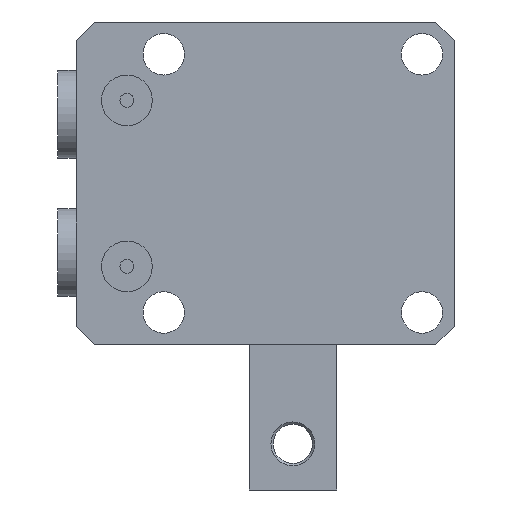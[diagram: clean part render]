
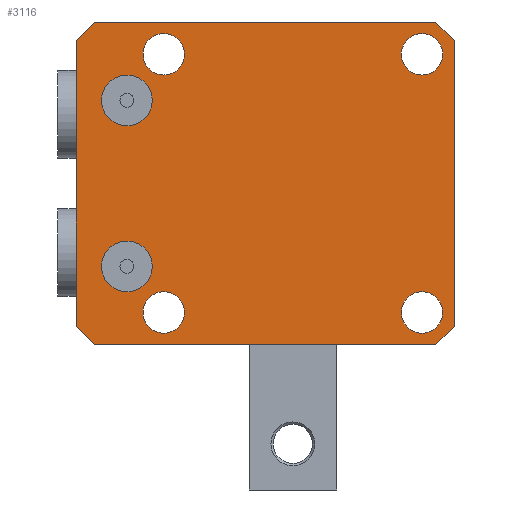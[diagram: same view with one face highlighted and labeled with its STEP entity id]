
A CAD part, front view. The second image highlights one B-rep face of the part: STEP entity #3116.
In plain terms, the highlighted planar face has unit normal (0, -1, 0).
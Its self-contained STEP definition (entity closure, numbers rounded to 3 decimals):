
#151=FACE_BOUND('',#521,.T.);
#152=FACE_BOUND('',#522,.T.);
#153=FACE_BOUND('',#523,.T.);
#154=FACE_BOUND('',#524,.T.);
#155=FACE_BOUND('',#525,.T.);
#156=FACE_BOUND('',#526,.T.);
#208=PLANE('',#3602);
#326=FACE_OUTER_BOUND('',#520,.T.);
#520=EDGE_LOOP('',(#2306,#2307,#2308,#2309,#2310,#2311,#2312,#2313));
#521=EDGE_LOOP('',(#2314));
#522=EDGE_LOOP('',(#2315));
#523=EDGE_LOOP('',(#2316));
#524=EDGE_LOOP('',(#2317));
#525=EDGE_LOOP('',(#2318));
#526=EDGE_LOOP('',(#2319));
#758=LINE('',#5114,#1025);
#760=LINE('',#5118,#1027);
#782=LINE('',#5167,#1049);
#784=LINE('',#5171,#1051);
#785=LINE('',#5173,#1052);
#786=LINE('',#5175,#1053);
#787=LINE('',#5177,#1054);
#788=LINE('',#5178,#1055);
#1025=VECTOR('',#4080,1000.);
#1027=VECTOR('',#4084,1000.);
#1049=VECTOR('',#4128,1000.);
#1051=VECTOR('',#4132,1000.);
#1052=VECTOR('',#4133,1000.);
#1053=VECTOR('',#4134,1000.);
#1054=VECTOR('',#4135,1000.);
#1055=VECTOR('',#4136,1000.);
#1249=CIRCLE('',#3544,4.5);
#1252=CIRCLE('',#3551,4.5);
#1255=CIRCLE('',#3555,5.5);
#1257=CIRCLE('',#3558,5.5);
#1258=CIRCLE('',#3560,4.5);
#1260=CIRCLE('',#3563,4.5);
#1422=VERTEX_POINT('',#4999);
#1429=VERTEX_POINT('',#5016);
#1432=VERTEX_POINT('',#5024);
#1434=VERTEX_POINT('',#5030);
#1435=VERTEX_POINT('',#5034);
#1437=VERTEX_POINT('',#5040);
#1463=VERTEX_POINT('',#5111);
#1464=VERTEX_POINT('',#5113);
#1465=VERTEX_POINT('',#5117);
#1481=VERTEX_POINT('',#5166);
#1482=VERTEX_POINT('',#5170);
#1483=VERTEX_POINT('',#5172);
#1484=VERTEX_POINT('',#5174);
#1485=VERTEX_POINT('',#5176);
#1717=EDGE_CURVE('',#1422,#1422,#1249,.T.);
#1725=EDGE_CURVE('',#1429,#1429,#1252,.T.);
#1730=EDGE_CURVE('',#1432,#1432,#1255,.T.);
#1733=EDGE_CURVE('',#1434,#1434,#1257,.T.);
#1734=EDGE_CURVE('',#1435,#1435,#1258,.T.);
#1737=EDGE_CURVE('',#1437,#1437,#1260,.T.);
#1772=EDGE_CURVE('',#1464,#1463,#758,.T.);
#1774=EDGE_CURVE('',#1465,#1464,#760,.T.);
#1799=EDGE_CURVE('',#1463,#1481,#782,.T.);
#1801=EDGE_CURVE('',#1481,#1482,#784,.T.);
#1802=EDGE_CURVE('',#1482,#1483,#785,.T.);
#1803=EDGE_CURVE('',#1483,#1484,#786,.T.);
#1804=EDGE_CURVE('',#1484,#1485,#787,.T.);
#1805=EDGE_CURVE('',#1485,#1465,#788,.T.);
#2306=ORIENTED_EDGE('',*,*,#1772,.T.);
#2307=ORIENTED_EDGE('',*,*,#1799,.T.);
#2308=ORIENTED_EDGE('',*,*,#1801,.T.);
#2309=ORIENTED_EDGE('',*,*,#1802,.T.);
#2310=ORIENTED_EDGE('',*,*,#1803,.T.);
#2311=ORIENTED_EDGE('',*,*,#1804,.T.);
#2312=ORIENTED_EDGE('',*,*,#1805,.T.);
#2313=ORIENTED_EDGE('',*,*,#1774,.T.);
#2314=ORIENTED_EDGE('',*,*,#1730,.T.);
#2315=ORIENTED_EDGE('',*,*,#1733,.T.);
#2316=ORIENTED_EDGE('',*,*,#1734,.T.);
#2317=ORIENTED_EDGE('',*,*,#1717,.T.);
#2318=ORIENTED_EDGE('',*,*,#1737,.T.);
#2319=ORIENTED_EDGE('',*,*,#1725,.T.);
#3116=ADVANCED_FACE('',(#326,#151,#152,#153,#154,#155,#156),#208,.T.);
#3544=AXIS2_PLACEMENT_3D('',#5000,#3962,#3963);
#3551=AXIS2_PLACEMENT_3D('',#5017,#3979,#3980);
#3555=AXIS2_PLACEMENT_3D('',#5026,#3989,#3990);
#3558=AXIS2_PLACEMENT_3D('',#5032,#3996,#3997);
#3560=AXIS2_PLACEMENT_3D('',#5035,#4000,#4001);
#3563=AXIS2_PLACEMENT_3D('',#5041,#4007,#4008);
#3602=AXIS2_PLACEMENT_3D('',#5169,#4130,#4131);
#3962=DIRECTION('center_axis',(0.,1.,0.));
#3963=DIRECTION('ref_axis',(0.,0.,1.));
#3979=DIRECTION('center_axis',(0.,1.,0.));
#3980=DIRECTION('ref_axis',(0.,0.,1.));
#3989=DIRECTION('center_axis',(0.,1.,0.));
#3990=DIRECTION('ref_axis',(0.,0.,-1.));
#3996=DIRECTION('center_axis',(0.,1.,0.));
#3997=DIRECTION('ref_axis',(0.,0.,-1.));
#4000=DIRECTION('center_axis',(0.,1.,0.));
#4001=DIRECTION('ref_axis',(0.,0.,1.));
#4007=DIRECTION('center_axis',(0.,1.,0.));
#4008=DIRECTION('ref_axis',(0.,0.,1.));
#4080=DIRECTION('',(1.,0.,0.));
#4084=DIRECTION('',(0.707,0.,-0.707));
#4128=DIRECTION('',(0.707,0.,0.707));
#4130=DIRECTION('center_axis',(0.,-1.,0.));
#4131=DIRECTION('ref_axis',(0.,0.,-1.));
#4132=DIRECTION('',(0.,0.,1.));
#4133=DIRECTION('',(-0.707,0.,0.707));
#4134=DIRECTION('',(-1.,0.,0.));
#4135=DIRECTION('',(-0.707,0.,-0.707));
#4136=DIRECTION('',(0.,0.,-1.));
#4999=CARTESIAN_POINT('',(-28.,4.541,-32.5));
#5000=CARTESIAN_POINT('Origin',(-28.,4.541,-28.));
#5016=CARTESIAN_POINT('',(28.,4.541,-32.5));
#5017=CARTESIAN_POINT('Origin',(28.,4.541,-28.));
#5024=CARTESIAN_POINT('',(36.,4.541,23.5));
#5026=CARTESIAN_POINT('Origin',(36.,4.541,18.));
#5030=CARTESIAN_POINT('',(36.,4.541,-12.5));
#5032=CARTESIAN_POINT('Origin',(36.,4.541,-18.));
#5034=CARTESIAN_POINT('',(28.,4.541,23.5));
#5035=CARTESIAN_POINT('Origin',(28.,4.541,28.));
#5040=CARTESIAN_POINT('',(-28.,4.541,23.5));
#5041=CARTESIAN_POINT('Origin',(-28.,4.541,28.));
#5111=CARTESIAN_POINT('',(43.,4.541,-35.));
#5113=CARTESIAN_POINT('',(-31.,4.541,-35.));
#5114=CARTESIAN_POINT('',(-31.,4.541,-35.));
#5117=CARTESIAN_POINT('',(-35.,4.541,-31.));
#5118=CARTESIAN_POINT('',(-35.,4.541,-31.));
#5166=CARTESIAN_POINT('',(47.,4.541,-31.));
#5167=CARTESIAN_POINT('',(43.,4.541,-35.));
#5169=CARTESIAN_POINT('Origin',(-35.,4.541,35.));
#5170=CARTESIAN_POINT('',(47.,4.541,31.));
#5171=CARTESIAN_POINT('',(47.,4.541,35.));
#5172=CARTESIAN_POINT('',(43.,4.541,35.));
#5173=CARTESIAN_POINT('',(47.,4.541,31.));
#5174=CARTESIAN_POINT('',(-31.,4.541,35.));
#5175=CARTESIAN_POINT('',(-35.,4.541,35.));
#5176=CARTESIAN_POINT('',(-35.,4.541,31.));
#5177=CARTESIAN_POINT('',(-31.,4.541,35.));
#5178=CARTESIAN_POINT('',(-35.,4.541,35.));
